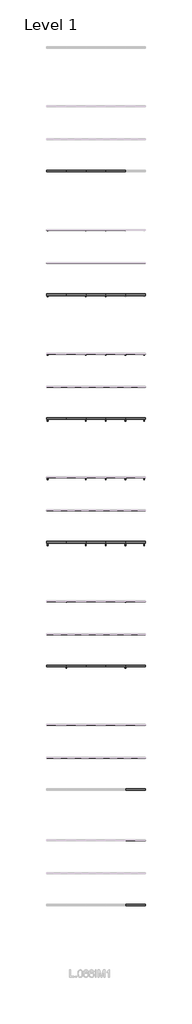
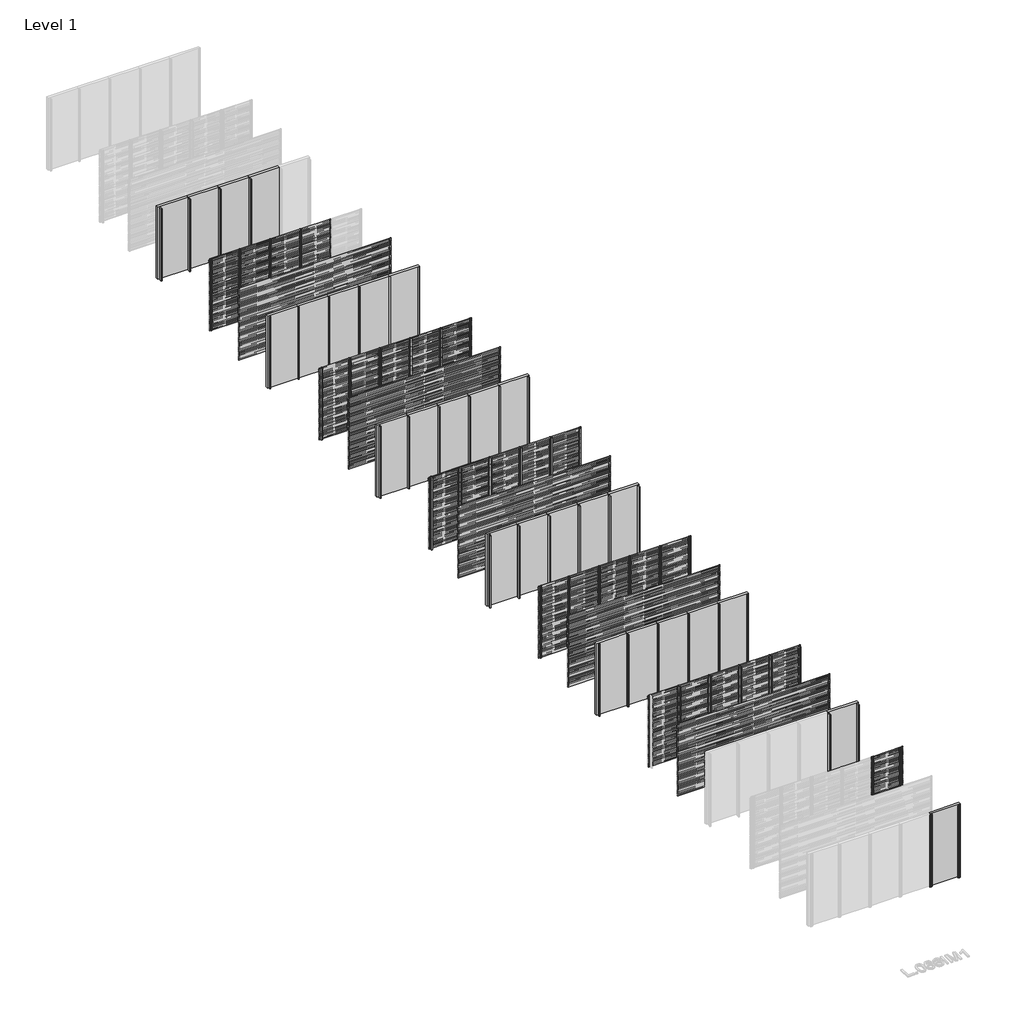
# One storey, part 12 of 540: 59 members, 56 plates.
"""IFC4 building model written with IfcOpenShell, lengths in millimetres."""

from ifc_helpers import new_model, si_unit, origin, place, context, project, spatial, faceted_brep, transform, mapped, element, save
from components import rectangular_mullion_fb497acc, rectangular_mullion_3facce28, rectangular_mullion_6cf2c509, rectangular_mullion_8b77bd57, rectangular_mullion_2c867e25, rectangular_mullion_7803f5c4, rectangular_mullion_82152e2f, rectangular_mullion_bd250e2e, rectangular_mullion_2b84ad7e, rectangular_mullion_9b796d85, rectangular_mullion_dfb17e98, rectangular_mullion_6132f1f1, rectangular_mullion_8f153c19, rectangular_mullion_5b30f3fd, rectangular_mullion_5e0e8e0a, rectangular_mullion_efb80f74, rectangular_mullion_ea9d012c, empty_system_panel_empty_aabbdda4

model = new_model("IFC4")

# Units and contexts
model_context = context("Model", 3, world=origin())
ifc_project = project(units=[si_unit("LENGTHUNIT", "METRE", prefix="MILLI")], contexts=[model_context])

# Site, building, storey
site = spatial("IfcSite", under=ifc_project)
building = spatial("IfcBuilding", under=site)
storey = spatial("IfcBuildingStorey", under=building, Name="Level 1", Elevation=0.0)

# Members
placement = place(None, origin())
rectangular_mullion_shape = rectangular_mullion_fb497acc(model_context)
element("IfcMember", 1, ObjectType="Rectangular Mullion : LD.0995_renson", at=placement, inside=storey, context=model_context, shape_type="MappedRepresentation", body=[
    mapped(rectangular_mullion_shape, transform((271066.6208096, 47483.0540136, 0.0), x_axis=(-1.0, 0.0, 0.0), y_axis=(0.0, 1.0, 0.0), z_axis=(0.0, 0.0, -1.0))),
])
element("IfcMember", 2, ObjectType="Rectangular Mullion : LD.0995_renson", at=placement, inside=storey, context=model_context, shape_type="MappedRepresentation", body=[
    mapped(rectangular_mullion_shape, transform((269866.6208097, 47483.0540136, 0.0), x_axis=(-1.0, 0.0, 0.0), y_axis=(0.0, 1.0, 0.0), z_axis=(0.0, 0.0, -1.0))),
])
element("IfcMember", 3, ObjectType="Rectangular Mullion : LD.0995_renson", at=placement, inside=storey, context=model_context, shape_type="MappedRepresentation", body=[
    mapped(rectangular_mullion_shape, transform((268666.6208099, 47483.0540136, 0.0), x_axis=(-1.0, 0.0, 0.0), y_axis=(0.0, 1.0, 0.0), z_axis=(0.0, 0.0, -1.0))),
])
rectangular_mullion_2_shape = rectangular_mullion_3facce28(model_context)
element("IfcMember", 4, ObjectType="Rectangular Mullion : SD.014_renson", at=placement, inside=storey, context=model_context, shape_type="MappedRepresentation", body=[
    mapped(rectangular_mullion_2_shape, transform((269866.6208097, 43983.0540136, 0.0), x_axis=(-1.0, 0.0, 0.0), y_axis=(0.0, 1.0, 0.0), z_axis=(0.0, 0.0, -1.0))),
])
element("IfcMember", 5, ObjectType="Rectangular Mullion : SD.014_renson", at=placement, inside=storey, context=model_context, shape_type="MappedRepresentation", body=[
    mapped(rectangular_mullion_2_shape, transform((268666.6208099, 43983.0540136, 0.0), x_axis=(-1.0, 0.0, 0.0), y_axis=(0.0, 1.0, 0.0), z_axis=(0.0, 0.0, -1.0))),
])
element("IfcMember", 6, ObjectType="Rectangular Mullion : SD.014_renson", at=placement, inside=storey, context=model_context, shape_type="MappedRepresentation", body=[
    mapped(rectangular_mullion_2_shape, transform((271066.6208096, 39983.0540136, 0.0), x_axis=(-1.0, 0.0, 0.0), y_axis=(0.0, 1.0, 0.0), z_axis=(0.0, 0.0, -1.0))),
])
element("IfcMember", 7, ObjectType="Rectangular Mullion : SD.014_renson", at=placement, inside=storey, context=model_context, shape_type="MappedRepresentation", body=[
    mapped(rectangular_mullion_2_shape, transform((269866.6208097, 39983.0540136, 0.0), x_axis=(-1.0, 0.0, 0.0), y_axis=(0.0, 1.0, 0.0), z_axis=(0.0, 0.0, -1.0))),
])
element("IfcMember", 8, ObjectType="Rectangular Mullion : SD.014_renson", at=placement, inside=storey, context=model_context, shape_type="MappedRepresentation", body=[
    mapped(rectangular_mullion_2_shape, transform((268666.6208099, 39983.0540136, 0.0), x_axis=(-1.0, 0.0, 0.0), y_axis=(0.0, 1.0, 0.0), z_axis=(0.0, 0.0, -1.0))),
])
element("IfcMember", 9, ObjectType="Rectangular Mullion : SD.014_renson", at=placement, inside=storey, context=model_context, shape_type="MappedRepresentation", body=[
    mapped(rectangular_mullion_2_shape, transform((271066.6208096, 43983.0540136, 0.0), x_axis=(-1.0, 0.0, 0.0), y_axis=(0.0, 1.0, 0.0), z_axis=(0.0, 0.0, -1.0))),
])
rectangular_mullion_3_shape = rectangular_mullion_6cf2c509(model_context)
element("IfcMember", 10, ObjectType="Rectangular Mullion : SD.054_renson", at=placement, inside=storey, context=model_context, shape_type="MappedRepresentation", body=[
    mapped(rectangular_mullion_3_shape, transform((269866.6208097, 36483.0540136, 0.0), x_axis=(-1.0, 0.0, 0.0), y_axis=(0.0, 1.0, 0.0), z_axis=(0.0, 0.0, -1.0))),
])
element("IfcMember", 11, ObjectType="Rectangular Mullion : SD.054_renson", at=placement, inside=storey, context=model_context, shape_type="MappedRepresentation", body=[
    mapped(rectangular_mullion_3_shape, transform((268666.6208099, 36483.0540136, 0.0), x_axis=(-1.0, 0.0, 0.0), y_axis=(0.0, 1.0, 0.0), z_axis=(0.0, 0.0, -1.0))),
])
element("IfcMember", 12, ObjectType="Rectangular Mullion : SD.054_renson", at=placement, inside=storey, context=model_context, shape_type="MappedRepresentation", body=[
    mapped(rectangular_mullion_3_shape, transform((272266.6208095, 32483.0540136, 0.0), x_axis=(-1.0, 0.0, 0.0), y_axis=(0.0, 1.0, 0.0), z_axis=(0.0, 0.0, -1.0))),
])
element("IfcMember", 13, ObjectType="Rectangular Mullion : SD.054_renson", at=placement, inside=storey, context=model_context, shape_type="MappedRepresentation", body=[
    mapped(rectangular_mullion_3_shape, transform((271066.6208096, 32483.0540136, 0.0), x_axis=(-1.0, 0.0, 0.0), y_axis=(0.0, 1.0, 0.0), z_axis=(0.0, 0.0, -1.0))),
])
element("IfcMember", 14, ObjectType="Rectangular Mullion : SD.054_renson", at=placement, inside=storey, context=model_context, shape_type="MappedRepresentation", body=[
    mapped(rectangular_mullion_3_shape, transform((269866.6208097, 32483.0540136, 0.0), x_axis=(-1.0, 0.0, 0.0), y_axis=(0.0, 1.0, 0.0), z_axis=(0.0, 0.0, -1.0))),
])
element("IfcMember", 15, ObjectType="Rectangular Mullion : SD.054_renson", at=placement, inside=storey, context=model_context, shape_type="MappedRepresentation", body=[
    mapped(rectangular_mullion_3_shape, transform((268666.6208099, 32483.0540136, 0.0), x_axis=(-1.0, 0.0, 0.0), y_axis=(0.0, 1.0, 0.0), z_axis=(0.0, 0.0, -1.0))),
])
element("IfcMember", 16, ObjectType="Rectangular Mullion : SD.054_renson", at=placement, inside=storey, context=model_context, shape_type="MappedRepresentation", body=[
    mapped(rectangular_mullion_3_shape, transform((271066.6208096, 36483.0540136, 0.0), x_axis=(-1.0, 0.0, 0.0), y_axis=(0.0, 1.0, 0.0), z_axis=(0.0, 0.0, -1.0))),
])
element("IfcMember", 17, ObjectType="Rectangular Mullion : SD.054_renson", at=placement, inside=storey, context=model_context, shape_type="MappedRepresentation", body=[
    mapped(rectangular_mullion_3_shape, transform((272266.6208095, 36483.0540136, 0.0), x_axis=(-1.0, 0.0, 0.0), y_axis=(0.0, 1.0, 0.0), z_axis=(0.0, 0.0, -1.0))),
])
rectangular_mullion_4_shape = rectangular_mullion_8b77bd57(model_context)
element("IfcMember", 18, ObjectType="Rectangular Mullion : SD.100_renson", at=placement, inside=storey, context=model_context, shape_type="MappedRepresentation", body=[
    mapped(rectangular_mullion_4_shape, transform((269866.6208097, 28983.0540136, 0.0), x_axis=(-1.0, 0.0, 0.0), y_axis=(0.0, 1.0, 0.0), z_axis=(0.0, 0.0, -1.0))),
])
element("IfcMember", 19, ObjectType="Rectangular Mullion : SD.100_renson", at=placement, inside=storey, context=model_context, shape_type="MappedRepresentation", body=[
    mapped(rectangular_mullion_4_shape, transform((268666.6208099, 28983.0540136, 0.0), x_axis=(-1.0, 0.0, 0.0), y_axis=(0.0, 1.0, 0.0), z_axis=(0.0, 0.0, -1.0))),
])
element("IfcMember", 20, ObjectType="Rectangular Mullion : SD.100_renson", at=placement, inside=storey, context=model_context, shape_type="MappedRepresentation", body=[
    mapped(rectangular_mullion_4_shape, transform((272266.6208095, 24983.0540136, 0.0), x_axis=(-1.0, 0.0, 0.0), y_axis=(0.0, 1.0, 0.0), z_axis=(0.0, 0.0, -1.0))),
])
element("IfcMember", 21, ObjectType="Rectangular Mullion : SD.100_renson", at=placement, inside=storey, context=model_context, shape_type="MappedRepresentation", body=[
    mapped(rectangular_mullion_4_shape, transform((271066.6208096, 24983.0540136, 0.0), x_axis=(-1.0, 0.0, 0.0), y_axis=(0.0, 1.0, 0.0), z_axis=(0.0, 0.0, -1.0))),
])
element("IfcMember", 22, ObjectType="Rectangular Mullion : SD.100_renson", at=placement, inside=storey, context=model_context, shape_type="MappedRepresentation", body=[
    mapped(rectangular_mullion_4_shape, transform((269866.6208097, 24983.0540136, 0.0), x_axis=(-1.0, 0.0, 0.0), y_axis=(0.0, 1.0, 0.0), z_axis=(0.0, 0.0, -1.0))),
])
element("IfcMember", 23, ObjectType="Rectangular Mullion : SD.100_renson", at=placement, inside=storey, context=model_context, shape_type="MappedRepresentation", body=[
    mapped(rectangular_mullion_4_shape, transform((268666.6208099, 24983.0540136, 0.0), x_axis=(-1.0, 0.0, 0.0), y_axis=(0.0, 1.0, 0.0), z_axis=(0.0, 0.0, -1.0))),
])
element("IfcMember", 24, ObjectType="Rectangular Mullion : SD.100_renson", at=placement, inside=storey, context=model_context, shape_type="MappedRepresentation", body=[
    mapped(rectangular_mullion_4_shape, transform((271066.6208096, 28983.0540136, 0.0), x_axis=(-1.0, 0.0, 0.0), y_axis=(0.0, 1.0, 0.0), z_axis=(0.0, 0.0, -1.0))),
])
element("IfcMember", 25, ObjectType="Rectangular Mullion : SD.100_renson", at=placement, inside=storey, context=model_context, shape_type="MappedRepresentation", body=[
    mapped(rectangular_mullion_4_shape, transform((272266.6208095, 28983.0540136, 0.0), x_axis=(-1.0, 0.0, 0.0), y_axis=(0.0, 1.0, 0.0), z_axis=(0.0, 0.0, -1.0))),
])
rectangular_mullion_5_shape = rectangular_mullion_2c867e25(model_context)
element("IfcMember", 26, ObjectType="Rectangular Mullion : LD.0440_renson", at=placement, inside=storey, context=model_context, shape_type="MappedRepresentation", body=[
    mapped(rectangular_mullion_5_shape, transform((269866.6208097, 21483.0540136, 0.0), x_axis=(-1.0, 0.0, 0.0), y_axis=(0.0, 1.0, 0.0), z_axis=(0.0, 0.0, -1.0))),
])
element("IfcMember", 27, ObjectType="Rectangular Mullion : LD.0440_renson", at=placement, inside=storey, context=model_context, shape_type="MappedRepresentation", body=[
    mapped(rectangular_mullion_5_shape, transform((268666.6208099, 21483.0540136, 0.0), x_axis=(-1.0, 0.0, 0.0), y_axis=(0.0, 1.0, 0.0), z_axis=(0.0, 0.0, -1.0))),
])
element("IfcMember", 28, ObjectType="Rectangular Mullion : LD.0440_renson", at=placement, inside=storey, context=model_context, shape_type="MappedRepresentation", body=[
    mapped(rectangular_mullion_5_shape, transform((272266.6208095, 17483.0540136, 0.0), x_axis=(-1.0, 0.0, 0.0), y_axis=(0.0, 1.0, 0.0), z_axis=(0.0, 0.0, -1.0))),
])
element("IfcMember", 29, ObjectType="Rectangular Mullion : LD.0440_renson", at=placement, inside=storey, context=model_context, shape_type="MappedRepresentation", body=[
    mapped(rectangular_mullion_5_shape, transform((271066.6208096, 17483.0540136, 0.0), x_axis=(-1.0, 0.0, 0.0), y_axis=(0.0, 1.0, 0.0), z_axis=(0.0, 0.0, -1.0))),
])
element("IfcMember", 30, ObjectType="Rectangular Mullion : LD.0440_renson", at=placement, inside=storey, context=model_context, shape_type="MappedRepresentation", body=[
    mapped(rectangular_mullion_5_shape, transform((269866.6208097, 17483.0540136, 0.0), x_axis=(-1.0, 0.0, 0.0), y_axis=(0.0, 1.0, 0.0), z_axis=(0.0, 0.0, -1.0))),
])
element("IfcMember", 31, ObjectType="Rectangular Mullion : LD.0440_renson", at=placement, inside=storey, context=model_context, shape_type="MappedRepresentation", body=[
    mapped(rectangular_mullion_5_shape, transform((268666.6208099, 17483.0540136, 0.0), x_axis=(-1.0, 0.0, 0.0), y_axis=(0.0, 1.0, 0.0), z_axis=(0.0, 0.0, -1.0))),
])
element("IfcMember", 32, ObjectType="Rectangular Mullion : LD.0440_renson", at=placement, inside=storey, context=model_context, shape_type="MappedRepresentation", body=[
    mapped(rectangular_mullion_5_shape, transform((271066.6208096, 21483.0540136, 0.0), x_axis=(-1.0, 0.0, 0.0), y_axis=(0.0, 1.0, 0.0), z_axis=(0.0, 0.0, -1.0))),
])
element("IfcMember", 33, ObjectType="Rectangular Mullion : LD.0440_renson", at=placement, inside=storey, context=model_context, shape_type="MappedRepresentation", body=[
    mapped(rectangular_mullion_5_shape, transform((272266.6208095, 21483.0540136, 0.0), x_axis=(-1.0, 0.0, 0.0), y_axis=(0.0, 1.0, 0.0), z_axis=(0.0, 0.0, -1.0))),
])
rectangular_mullion_6_shape = rectangular_mullion_7803f5c4(model_context)
element("IfcMember", 34, ObjectType="Rectangular Mullion : LD.1250_renson", at=placement, inside=storey, context=model_context, shape_type="MappedRepresentation", body=[
    mapped(rectangular_mullion_6_shape, transform((269866.6208097, 13983.0540136, 0.0), x_axis=(-1.0, 0.0, 0.0), y_axis=(0.0, 1.0, 0.0), z_axis=(0.0, 0.0, -1.0))),
])
element("IfcMember", 35, ObjectType="Rectangular Mullion : LD.1250_renson", at=placement, inside=storey, context=model_context, shape_type="MappedRepresentation", body=[
    mapped(rectangular_mullion_6_shape, transform((268666.6208099, 13983.0540136, 0.0), x_axis=(-1.0, 0.0, 0.0), y_axis=(0.0, 1.0, 0.0), z_axis=(0.0, 0.0, -1.0))),
])
element("IfcMember", 36, ObjectType="Rectangular Mullion : LD.1250_renson", at=placement, inside=storey, context=model_context, shape_type="MappedRepresentation", body=[
    mapped(rectangular_mullion_6_shape, transform((272266.6208095, 9983.0540136, 0.0), x_axis=(-1.0, 0.0, 0.0), y_axis=(0.0, 1.0, 0.0), z_axis=(0.0, 0.0, -1.0))),
])
element("IfcMember", 37, ObjectType="Rectangular Mullion : LD.1250_renson", at=placement, inside=storey, context=model_context, shape_type="MappedRepresentation", body=[
    mapped(rectangular_mullion_6_shape, transform((271066.6208096, 13983.0540136, 0.0), x_axis=(-1.0, 0.0, 0.0), y_axis=(0.0, 1.0, 0.0), z_axis=(0.0, 0.0, -1.0))),
])
element("IfcMember", 38, ObjectType="Rectangular Mullion : LD.1250_renson", at=placement, inside=storey, context=model_context, shape_type="MappedRepresentation", body=[
    mapped(rectangular_mullion_6_shape, transform((272266.6208095, 13983.0540136, 0.0), x_axis=(-1.0, 0.0, 0.0), y_axis=(0.0, 1.0, 0.0), z_axis=(0.0, 0.0, -1.0))),
])
rectangular_mullion_7_shape = rectangular_mullion_82152e2f(model_context)
element("IfcMember", 39, ObjectType="Rectangular Mullion : LD.0240_renson", at=placement, inside=storey, context=model_context, shape_type="MappedRepresentation", body=[
    mapped(rectangular_mullion_7_shape, transform((272266.6208095, 2987.0270068, 0.0), x_axis=(-1.0, 0.0, 0.0), y_axis=(0.0, 1.0, 0.0), z_axis=(0.0, 0.0, -1.0))),
])
element("IfcMember", 40, ObjectType="Rectangular Mullion : LD.0240_renson", at=placement, inside=storey, context=model_context, shape_type="MappedRepresentation", body=[
    mapped(rectangular_mullion_7_shape, transform((272266.6208095, 6987.0270068, 0.0), x_axis=(-1.0, 0.0, 0.0), y_axis=(0.0, 1.0, 0.0), z_axis=(0.0, 0.0, -1.0))),
])
rectangular_mullion_8_shape = rectangular_mullion_bd250e2e(model_context)
element("IfcMember", 41, ObjectType="Rectangular Mullion : LD.0995 - left_renson", at=placement, inside=storey, context=model_context, shape_type="MappedRepresentation", body=[
    mapped(rectangular_mullion_8_shape, transform((267466.6208097, 47483.0540136, 0.0), x_axis=(-1.0, 0.0, 0.0), y_axis=(0.0, 1.0, 0.0), z_axis=(0.0, 0.0, -1.0))),
])
rectangular_mullion_9_shape = rectangular_mullion_2b84ad7e(model_context)
element("IfcMember", 42, ObjectType="Rectangular Mullion : SD.014 - left_renson", at=placement, inside=storey, context=model_context, shape_type="MappedRepresentation", body=[
    mapped(rectangular_mullion_9_shape, transform((267466.6208097, 43983.0540136, 0.0), x_axis=(-1.0, 0.0, 0.0), y_axis=(0.0, 1.0, 0.0), z_axis=(0.0, 0.0, -1.0))),
])
element("IfcMember", 43, ObjectType="Rectangular Mullion : SD.014 - left_renson", at=placement, inside=storey, context=model_context, shape_type="MappedRepresentation", body=[
    mapped(rectangular_mullion_9_shape, transform((267466.6208097, 39983.0540136, 0.0), x_axis=(-1.0, 0.0, 0.0), y_axis=(0.0, 1.0, 0.0), z_axis=(0.0, 0.0, -1.0))),
])
rectangular_mullion_10_shape = rectangular_mullion_9b796d85(model_context)
element("IfcMember", 44, ObjectType="Rectangular Mullion : SD.054 - left_renson", at=placement, inside=storey, context=model_context, shape_type="MappedRepresentation", body=[
    mapped(rectangular_mullion_10_shape, transform((267466.6208097, 36483.0540136, 0.0), x_axis=(-1.0, 0.0, 0.0), y_axis=(0.0, 1.0, 0.0), z_axis=(0.0, 0.0, -1.0))),
])
element("IfcMember", 45, ObjectType="Rectangular Mullion : SD.054 - left_renson", at=placement, inside=storey, context=model_context, shape_type="MappedRepresentation", body=[
    mapped(rectangular_mullion_10_shape, transform((267466.6208097, 32483.0540136, 0.0), x_axis=(-1.0, 0.0, 0.0), y_axis=(0.0, 1.0, 0.0), z_axis=(0.0, 0.0, -1.0))),
])
rectangular_mullion_11_shape = rectangular_mullion_dfb17e98(model_context)
element("IfcMember", 46, ObjectType="Rectangular Mullion : SD.054 - right_renson", at=placement, inside=storey, context=model_context, shape_type="MappedRepresentation", body=[
    mapped(rectangular_mullion_11_shape, transform((273466.6208097, 36483.0540136, 3000.0), x_axis=(1.0, 0.0, 0.0), y_axis=(0.0, 1.0, 0.0), z_axis=(0.0, 0.0, 1.0))),
])
element("IfcMember", 47, ObjectType="Rectangular Mullion : SD.054 - right_renson", at=placement, inside=storey, context=model_context, shape_type="MappedRepresentation", body=[
    mapped(rectangular_mullion_11_shape, transform((273466.6208097, 32483.0540136, 3000.0), x_axis=(1.0, 0.0, 0.0), y_axis=(0.0, 1.0, 0.0), z_axis=(0.0, 0.0, 1.0))),
])
rectangular_mullion_12_shape = rectangular_mullion_6132f1f1(model_context)
element("IfcMember", 48, ObjectType="Rectangular Mullion : SD.100 - left_renson", at=placement, inside=storey, context=model_context, shape_type="MappedRepresentation", body=[
    mapped(rectangular_mullion_12_shape, transform((267466.6208097, 28983.0540136, 0.0), x_axis=(-1.0, 0.0, 0.0), y_axis=(0.0, 1.0, 0.0), z_axis=(0.0, 0.0, -1.0))),
])
element("IfcMember", 49, ObjectType="Rectangular Mullion : SD.100 - left_renson", at=placement, inside=storey, context=model_context, shape_type="MappedRepresentation", body=[
    mapped(rectangular_mullion_12_shape, transform((267466.6208097, 24983.0540136, 0.0), x_axis=(-1.0, 0.0, 0.0), y_axis=(0.0, 1.0, 0.0), z_axis=(0.0, 0.0, -1.0))),
])
rectangular_mullion_13_shape = rectangular_mullion_8f153c19(model_context)
element("IfcMember", 50, ObjectType="Rectangular Mullion : SD.100 - right_renson", at=placement, inside=storey, context=model_context, shape_type="MappedRepresentation", body=[
    mapped(rectangular_mullion_13_shape, transform((273466.6208097, 28983.0540136, 3000.0), x_axis=(1.0, 0.0, 0.0), y_axis=(0.0, 1.0, 0.0), z_axis=(0.0, 0.0, 1.0))),
])
element("IfcMember", 51, ObjectType="Rectangular Mullion : SD.100 - right_renson", at=placement, inside=storey, context=model_context, shape_type="MappedRepresentation", body=[
    mapped(rectangular_mullion_13_shape, transform((273466.6208097, 24983.0540136, 3000.0), x_axis=(1.0, 0.0, 0.0), y_axis=(0.0, 1.0, 0.0), z_axis=(0.0, 0.0, 1.0))),
])
rectangular_mullion_14_shape = rectangular_mullion_5b30f3fd(model_context)
element("IfcMember", 52, ObjectType="Rectangular Mullion : LD.0440 - left_renson", at=placement, inside=storey, context=model_context, shape_type="MappedRepresentation", body=[
    mapped(rectangular_mullion_14_shape, transform((267466.6208097, 21483.0540136, 0.0), x_axis=(-1.0, 0.0, 0.0), y_axis=(0.0, 1.0, 0.0), z_axis=(0.0, 0.0, -1.0))),
])
element("IfcMember", 53, ObjectType="Rectangular Mullion : LD.0440 - left_renson", at=placement, inside=storey, context=model_context, shape_type="MappedRepresentation", body=[
    mapped(rectangular_mullion_14_shape, transform((267466.6208097, 17483.0540136, 0.0), x_axis=(-1.0, 0.0, 0.0), y_axis=(0.0, 1.0, 0.0), z_axis=(0.0, 0.0, -1.0))),
])
rectangular_mullion_15_shape = rectangular_mullion_5e0e8e0a(model_context)
element("IfcMember", 54, ObjectType="Rectangular Mullion : LD.0440 - right_renson", at=placement, inside=storey, context=model_context, shape_type="MappedRepresentation", body=[
    mapped(rectangular_mullion_15_shape, transform((273466.6208097, 21483.0540136, 3000.0), x_axis=(1.0, 0.0, 0.0), y_axis=(0.0, 1.0, 0.0), z_axis=(0.0, 0.0, 1.0))),
])
element("IfcMember", 55, ObjectType="Rectangular Mullion : LD.0440 - right_renson", at=placement, inside=storey, context=model_context, shape_type="MappedRepresentation", body=[
    mapped(rectangular_mullion_15_shape, transform((273466.6208097, 17483.0540136, 3000.0), x_axis=(1.0, 0.0, 0.0), y_axis=(0.0, 1.0, 0.0), z_axis=(0.0, 0.0, 1.0))),
])
rectangular_mullion_16_shape = rectangular_mullion_efb80f74(model_context)
element("IfcMember", 56, ObjectType="Rectangular Mullion : LD.1250 - right_renson", at=placement, inside=storey, context=model_context, shape_type="MappedRepresentation", body=[
    mapped(rectangular_mullion_16_shape, transform((273466.6208097, 13983.0540136, 3000.0), x_axis=(1.0, 0.0, 0.0), y_axis=(0.0, 1.0, 0.0), z_axis=(0.0, 0.0, 1.0))),
])
element("IfcMember", 57, ObjectType="Rectangular Mullion : LD.1250 - right_renson", at=placement, inside=storey, context=model_context, shape_type="MappedRepresentation", body=[
    mapped(rectangular_mullion_16_shape, transform((273466.6208097, 9983.0540136, 3000.0), x_axis=(1.0, 0.0, 0.0), y_axis=(0.0, 1.0, 0.0), z_axis=(0.0, 0.0, 1.0))),
])
rectangular_mullion_17_shape = rectangular_mullion_ea9d012c(model_context)
element("IfcMember", 58, ObjectType="Rectangular Mullion : LD.0240 - right_renson", at=placement, inside=storey, context=model_context, shape_type="MappedRepresentation", body=[
    mapped(rectangular_mullion_17_shape, transform((273466.6208097, 6987.0270068, 3000.0), x_axis=(1.0, 0.0, 0.0), y_axis=(0.0, 1.0, 0.0), z_axis=(0.0, 0.0, 1.0))),
])
element("IfcMember", 59, ObjectType="Rectangular Mullion : LD.0240 - right_renson", at=placement, inside=storey, context=model_context, shape_type="MappedRepresentation", body=[
    mapped(rectangular_mullion_17_shape, transform((273466.6208097, 2987.0270068, 3000.0), x_axis=(1.0, 0.0, 0.0), y_axis=(0.0, 1.0, 0.0), z_axis=(0.0, 0.0, 1.0))),
])

# Plates
element("IfcPlate", 60, at=placement, inside=storey, context=model_context, shape_type="Brep", body=[
    faceted_brep([(268666.6208099, 43984.0540136, 0.0), (267466.6208097, 43984.0540136, 0.0), (267466.6208097, 43984.0540136, 3000.0), (268666.6208099, 43984.0540136, 3000.0), (268666.6208099, 43982.0540136, 0.0), (268666.6208099, 43982.0540136, 3000.0), (267466.6208097, 43982.0540136, 3000.0), (267466.6208097, 43982.0540136, 0.0)], [[[0, 1, 2, 3]], [[4, 5, 6, 7]], [[1, 0, 4, 7]], [[2, 1, 7, 6]], [[3, 2, 6, 5]], [[0, 3, 5, 4]]]),
])
element("IfcPlate", 61, at=placement, inside=storey, context=model_context, shape_type="Brep", body=[
    faceted_brep([(269866.6208097, 43984.0540136, 0.0), (268666.6208099, 43984.0540136, 0.0), (268666.6208099, 43984.0540136, 3000.0), (269866.6208097, 43984.0540136, 3000.0), (269866.6208097, 43982.0540136, 0.0), (269866.6208097, 43982.0540136, 3000.0), (268666.6208099, 43982.0540136, 3000.0), (268666.6208099, 43982.0540136, 0.0)], [[[0, 1, 2, 3]], [[4, 5, 6, 7]], [[1, 0, 4, 7]], [[2, 1, 7, 6]], [[3, 2, 6, 5]], [[0, 3, 5, 4]]]),
])
element("IfcPlate", 62, at=placement, inside=storey, context=model_context, shape_type="Brep", body=[
    faceted_brep([(273466.6208097, 41984.0540136, 0.0), (267466.6208097, 41984.0540136, 0.0), (267466.6208097, 41984.0540136, 3000.0), (273466.6208097, 41984.0540136, 3000.0), (273466.6208097, 41982.0540136, 0.0), (273466.6208097, 41982.0540136, 3000.0), (267466.6208097, 41982.0540136, 3000.0), (267466.6208097, 41982.0540136, 0.0)], [[[0, 1, 2, 3]], [[4, 5, 6, 7]], [[1, 0, 4, 7]], [[2, 1, 7, 6]], [[3, 2, 6, 5]], [[0, 3, 5, 4]]]),
])
element("IfcPlate", 63, at=placement, inside=storey, context=model_context, shape_type="Brep", body=[
    faceted_brep([(268666.6208099, 36484.0540136, 0.0), (267466.6208097, 36484.0540136, 0.0), (267466.6208097, 36484.0540136, 3000.0), (268666.6208099, 36484.0540136, 3000.0), (268666.6208099, 36482.0540136, 0.0), (268666.6208099, 36482.0540136, 3000.0), (267466.6208097, 36482.0540136, 3000.0), (267466.6208097, 36482.0540136, 0.0)], [[[0, 1, 2, 3]], [[4, 5, 6, 7]], [[1, 0, 4, 7]], [[2, 1, 7, 6]], [[3, 2, 6, 5]], [[0, 3, 5, 4]]]),
])
element("IfcPlate", 64, at=placement, inside=storey, context=model_context, shape_type="Brep", body=[
    faceted_brep([(269866.6208097, 36484.0540136, 0.0), (268666.6208099, 36484.0540136, 0.0), (268666.6208099, 36484.0540136, 3000.0), (269866.6208097, 36484.0540136, 3000.0), (269866.6208097, 36482.0540136, 0.0), (269866.6208097, 36482.0540136, 3000.0), (268666.6208099, 36482.0540136, 3000.0), (268666.6208099, 36482.0540136, 0.0)], [[[0, 1, 2, 3]], [[4, 5, 6, 7]], [[1, 0, 4, 7]], [[2, 1, 7, 6]], [[3, 2, 6, 5]], [[0, 3, 5, 4]]]),
])
element("IfcPlate", 65, at=placement, inside=storey, context=model_context, shape_type="Brep", body=[
    faceted_brep([(273466.6208097, 36484.0540136, 0.0), (272266.6208095, 36484.0540136, 0.0), (272266.6208095, 36484.0540136, 3000.0), (273466.6208097, 36484.0540136, 3000.0), (273466.6208097, 36482.0540136, 0.0), (273466.6208097, 36482.0540136, 3000.0), (272266.6208095, 36482.0540136, 3000.0), (272266.6208095, 36482.0540136, 0.0)], [[[0, 1, 2, 3]], [[4, 5, 6, 7]], [[1, 0, 4, 7]], [[2, 1, 7, 6]], [[3, 2, 6, 5]], [[0, 3, 5, 4]]]),
])
element("IfcPlate", 66, at=placement, inside=storey, context=model_context, shape_type="Brep", body=[
    faceted_brep([(273466.6208097, 34484.0540136, 0.0), (267466.6208097, 34484.0540136, 0.0), (267466.6208097, 34484.0540136, 3000.0), (273466.6208097, 34484.0540136, 3000.0), (273466.6208097, 34482.0540136, 0.0), (273466.6208097, 34482.0540136, 3000.0), (267466.6208097, 34482.0540136, 3000.0), (267466.6208097, 34482.0540136, 0.0)], [[[0, 1, 2, 3]], [[4, 5, 6, 7]], [[1, 0, 4, 7]], [[2, 1, 7, 6]], [[3, 2, 6, 5]], [[0, 3, 5, 4]]]),
])
element("IfcPlate", 67, at=placement, inside=storey, context=model_context, shape_type="Brep", body=[
    faceted_brep([(268666.6208099, 28984.0540136, 0.0), (267466.6208097, 28984.0540136, 0.0), (267466.6208097, 28984.0540136, 3000.0), (268666.6208099, 28984.0540136, 3000.0), (268666.6208099, 28982.0540136, 0.0), (268666.6208099, 28982.0540136, 3000.0), (267466.6208097, 28982.0540136, 3000.0), (267466.6208097, 28982.0540136, 0.0)], [[[0, 1, 2, 3]], [[4, 5, 6, 7]], [[1, 0, 4, 7]], [[2, 1, 7, 6]], [[3, 2, 6, 5]], [[0, 3, 5, 4]]]),
])
element("IfcPlate", 68, at=placement, inside=storey, context=model_context, shape_type="Brep", body=[
    faceted_brep([(269866.6208097, 28984.0540136, 0.0), (268666.6208099, 28984.0540136, 0.0), (268666.6208099, 28984.0540136, 3000.0), (269866.6208097, 28984.0540136, 3000.0), (269866.6208097, 28982.0540136, 0.0), (269866.6208097, 28982.0540136, 3000.0), (268666.6208099, 28982.0540136, 3000.0), (268666.6208099, 28982.0540136, 0.0)], [[[0, 1, 2, 3]], [[4, 5, 6, 7]], [[1, 0, 4, 7]], [[2, 1, 7, 6]], [[3, 2, 6, 5]], [[0, 3, 5, 4]]]),
])
element("IfcPlate", 69, at=placement, inside=storey, context=model_context, shape_type="Brep", body=[
    faceted_brep([(273466.6208097, 28984.0540136, 0.0), (272266.6208095, 28984.0540136, 0.0), (272266.6208095, 28984.0540136, 3000.0), (273466.6208097, 28984.0540136, 3000.0), (273466.6208097, 28982.0540136, 0.0), (273466.6208097, 28982.0540136, 3000.0), (272266.6208095, 28982.0540136, 3000.0), (272266.6208095, 28982.0540136, 0.0)], [[[0, 1, 2, 3]], [[4, 5, 6, 7]], [[1, 0, 4, 7]], [[2, 1, 7, 6]], [[3, 2, 6, 5]], [[0, 3, 5, 4]]]),
])
element("IfcPlate", 70, at=placement, inside=storey, context=model_context, shape_type="Brep", body=[
    faceted_brep([(273466.6208097, 26984.0540136, 0.0), (267466.6208097, 26984.0540136, 0.0), (267466.6208097, 26984.0540136, 3000.0), (273466.6208097, 26984.0540136, 3000.0), (273466.6208097, 26982.0540136, 0.0), (273466.6208097, 26982.0540136, 3000.0), (267466.6208097, 26982.0540136, 3000.0), (267466.6208097, 26982.0540136, 0.0)], [[[0, 1, 2, 3]], [[4, 5, 6, 7]], [[1, 0, 4, 7]], [[2, 1, 7, 6]], [[3, 2, 6, 5]], [[0, 3, 5, 4]]]),
])
element("IfcPlate", 71, at=placement, inside=storey, context=model_context, shape_type="Brep", body=[
    faceted_brep([(268666.6208099, 21484.0540136, 0.0), (267466.6208097, 21484.0540136, 0.0), (267466.6208097, 21484.0540136, 3000.0), (268666.6208099, 21484.0540136, 3000.0), (268666.6208099, 21482.0540136, 0.0), (268666.6208099, 21482.0540136, 3000.0), (267466.6208097, 21482.0540136, 3000.0), (267466.6208097, 21482.0540136, 0.0)], [[[0, 1, 2, 3]], [[4, 5, 6, 7]], [[1, 0, 4, 7]], [[2, 1, 7, 6]], [[3, 2, 6, 5]], [[0, 3, 5, 4]]]),
])
element("IfcPlate", 72, at=placement, inside=storey, context=model_context, shape_type="Brep", body=[
    faceted_brep([(269866.6208097, 21484.0540136, 0.0), (268666.6208099, 21484.0540136, 0.0), (268666.6208099, 21484.0540136, 3000.0), (269866.6208097, 21484.0540136, 3000.0), (269866.6208097, 21482.0540136, 0.0), (269866.6208097, 21482.0540136, 3000.0), (268666.6208099, 21482.0540136, 3000.0), (268666.6208099, 21482.0540136, 0.0)], [[[0, 1, 2, 3]], [[4, 5, 6, 7]], [[1, 0, 4, 7]], [[2, 1, 7, 6]], [[3, 2, 6, 5]], [[0, 3, 5, 4]]]),
])
element("IfcPlate", 73, at=placement, inside=storey, context=model_context, shape_type="Brep", body=[
    faceted_brep([(273466.6208097, 21484.0540136, 0.0), (272266.6208095, 21484.0540136, 0.0), (272266.6208095, 21484.0540136, 3000.0), (273466.6208097, 21484.0540136, 3000.0), (273466.6208097, 21482.0540136, 0.0), (273466.6208097, 21482.0540136, 3000.0), (272266.6208095, 21482.0540136, 3000.0), (272266.6208095, 21482.0540136, 0.0)], [[[0, 1, 2, 3]], [[4, 5, 6, 7]], [[1, 0, 4, 7]], [[2, 1, 7, 6]], [[3, 2, 6, 5]], [[0, 3, 5, 4]]]),
])
element("IfcPlate", 74, at=placement, inside=storey, context=model_context, shape_type="Brep", body=[
    faceted_brep([(273466.6208097, 19484.0540136, 0.0), (267466.6208097, 19484.0540136, 0.0), (267466.6208097, 19484.0540136, 3000.0), (273466.6208097, 19484.0540136, 3000.0), (273466.6208097, 19482.0540136, 0.0), (273466.6208097, 19482.0540136, 3000.0), (267466.6208097, 19482.0540136, 3000.0), (267466.6208097, 19482.0540136, 0.0)], [[[0, 1, 2, 3]], [[4, 5, 6, 7]], [[1, 0, 4, 7]], [[2, 1, 7, 6]], [[3, 2, 6, 5]], [[0, 3, 5, 4]]]),
])
element("IfcPlate", 75, at=placement, inside=storey, context=model_context, shape_type="Brep", body=[
    faceted_brep([(268666.6208099, 13984.0540136, 0.0), (267466.6208097, 13984.0540136, 0.0), (267466.6208097, 13984.0540136, 3000.0), (268666.6208099, 13984.0540136, 3000.0), (268666.6208099, 13982.0540136, 0.0), (268666.6208099, 13982.0540136, 3000.0), (267466.6208097, 13982.0540136, 3000.0), (267466.6208097, 13982.0540136, 0.0)], [[[0, 1, 2, 3]], [[4, 5, 6, 7]], [[1, 0, 4, 7]], [[2, 1, 7, 6]], [[3, 2, 6, 5]], [[0, 3, 5, 4]]]),
])
element("IfcPlate", 76, at=placement, inside=storey, context=model_context, shape_type="Brep", body=[
    faceted_brep([(269866.6208097, 13984.0540136, 0.0), (268666.6208099, 13984.0540136, 0.0), (268666.6208099, 13984.0540136, 3000.0), (269866.6208097, 13984.0540136, 3000.0), (269866.6208097, 13982.0540136, 0.0), (269866.6208097, 13982.0540136, 3000.0), (268666.6208099, 13982.0540136, 3000.0), (268666.6208099, 13982.0540136, 0.0)], [[[0, 1, 2, 3]], [[4, 5, 6, 7]], [[1, 0, 4, 7]], [[2, 1, 7, 6]], [[3, 2, 6, 5]], [[0, 3, 5, 4]]]),
])
element("IfcPlate", 77, at=placement, inside=storey, context=model_context, shape_type="Brep", body=[
    faceted_brep([(273466.6208097, 13984.0540136, 0.0), (272266.6208095, 13984.0540136, 0.0), (272266.6208095, 13984.0540136, 3000.0), (273466.6208097, 13984.0540136, 3000.0), (273466.6208097, 13982.0540136, 0.0), (273466.6208097, 13982.0540136, 3000.0), (272266.6208095, 13982.0540136, 3000.0), (272266.6208095, 13982.0540136, 0.0)], [[[0, 1, 2, 3]], [[4, 5, 6, 7]], [[1, 0, 4, 7]], [[2, 1, 7, 6]], [[3, 2, 6, 5]], [[0, 3, 5, 4]]]),
])
element("IfcPlate", 78, at=placement, inside=storey, context=model_context, shape_type="Brep", body=[
    faceted_brep([(273466.6208097, 11984.0540136, 0.0), (267466.6208097, 11984.0540136, 0.0), (267466.6208097, 11984.0540136, 3000.0), (273466.6208097, 11984.0540136, 3000.0), (273466.6208097, 11982.0540136, 0.0), (273466.6208097, 11982.0540136, 3000.0), (267466.6208097, 11982.0540136, 3000.0), (267466.6208097, 11982.0540136, 0.0)], [[[0, 1, 2, 3]], [[4, 5, 6, 7]], [[1, 0, 4, 7]], [[2, 1, 7, 6]], [[3, 2, 6, 5]], [[0, 3, 5, 4]]]),
])
element("IfcPlate", 79, at=placement, inside=storey, context=model_context, shape_type="Brep", body=[
    faceted_brep([(273466.6208097, 6988.0270068, 0.0), (272266.6208095, 6988.0270068, 0.0), (272266.6208095, 6988.0270068, 3000.0), (273466.6208097, 6988.0270068, 3000.0), (273466.6208097, 6986.0270068, 0.0), (273466.6208097, 6986.0270068, 3000.0), (272266.6208095, 6986.0270068, 3000.0), (272266.6208095, 6986.0270068, 0.0)], [[[0, 1, 2, 3]], [[4, 5, 6, 7]], [[1, 0, 4, 7]], [[2, 1, 7, 6]], [[3, 2, 6, 5]], [[0, 3, 5, 4]]]),
])
element("IfcPlate", 80, at=placement, inside=storey, context=model_context, shape_type="Brep", body=[
    faceted_brep([(271066.6208096, 21484.0540136, 0.0), (269866.6208097, 21484.0540136, 0.0), (269866.6208097, 21484.0540136, 3000.0), (271066.6208096, 21484.0540136, 3000.0), (271066.6208096, 21482.0540136, 0.0), (271066.6208096, 21482.0540136, 3000.0), (269866.6208097, 21482.0540136, 3000.0), (269866.6208097, 21482.0540136, 0.0)], [[[0, 1, 2, 3]], [[4, 5, 6, 7]], [[1, 0, 4, 7]], [[2, 1, 7, 6]], [[3, 2, 6, 5]], [[0, 3, 5, 4]]]),
])
element("IfcPlate", 81, at=placement, inside=storey, context=model_context, shape_type="Brep", body=[
    faceted_brep([(272266.6208095, 21484.0540136, 0.0), (271066.6208096, 21484.0540136, 0.0), (271066.6208096, 21484.0540136, 3000.0), (272266.6208095, 21484.0540136, 3000.0), (272266.6208095, 21482.0540136, 0.0), (272266.6208095, 21482.0540136, 3000.0), (271066.6208096, 21482.0540136, 3000.0), (271066.6208096, 21482.0540136, 0.0)], [[[0, 1, 2, 3]], [[4, 5, 6, 7]], [[1, 0, 4, 7]], [[2, 1, 7, 6]], [[3, 2, 6, 5]], [[0, 3, 5, 4]]]),
])
element("IfcPlate", 82, at=placement, inside=storey, context=model_context, shape_type="Brep", body=[
    faceted_brep([(271066.6208096, 13984.0540136, 0.0), (269866.6208097, 13984.0540136, 0.0), (269866.6208097, 13984.0540136, 3000.0), (271066.6208096, 13984.0540136, 3000.0), (271066.6208096, 13982.0540136, 0.0), (271066.6208096, 13982.0540136, 3000.0), (269866.6208097, 13982.0540136, 3000.0), (269866.6208097, 13982.0540136, 0.0)], [[[0, 1, 2, 3]], [[4, 5, 6, 7]], [[1, 0, 4, 7]], [[2, 1, 7, 6]], [[3, 2, 6, 5]], [[0, 3, 5, 4]]]),
])
element("IfcPlate", 83, at=placement, inside=storey, context=model_context, shape_type="Brep", body=[
    faceted_brep([(272266.6208095, 13984.0540136, 0.0), (271066.6208096, 13984.0540136, 0.0), (271066.6208096, 13984.0540136, 3000.0), (272266.6208095, 13984.0540136, 3000.0), (272266.6208095, 13982.0540136, 0.0), (272266.6208095, 13982.0540136, 3000.0), (271066.6208096, 13982.0540136, 3000.0), (271066.6208096, 13982.0540136, 0.0)], [[[0, 1, 2, 3]], [[4, 5, 6, 7]], [[1, 0, 4, 7]], [[2, 1, 7, 6]], [[3, 2, 6, 5]], [[0, 3, 5, 4]]]),
])
element("IfcPlate", 84, at=placement, inside=storey, context=model_context, shape_type="Brep", body=[
    faceted_brep([(271066.6208096, 43984.0540136, 0.0), (269866.6208097, 43984.0540136, 0.0), (269866.6208097, 43984.0540136, 3000.0), (271066.6208096, 43984.0540136, 3000.0), (271066.6208096, 43982.0540136, 0.0), (271066.6208096, 43982.0540136, 3000.0), (269866.6208097, 43982.0540136, 3000.0), (269866.6208097, 43982.0540136, 0.0)], [[[0, 1, 2, 3]], [[4, 5, 6, 7]], [[1, 0, 4, 7]], [[2, 1, 7, 6]], [[3, 2, 6, 5]], [[0, 3, 5, 4]]]),
])
element("IfcPlate", 85, at=placement, inside=storey, context=model_context, shape_type="Brep", body=[
    faceted_brep([(272266.6208095, 43984.0540136, 0.0), (271066.6208096, 43984.0540136, 0.0), (271066.6208096, 43984.0540136, 3000.0), (272266.6208095, 43984.0540136, 3000.0), (272266.6208095, 43982.0540136, 0.0), (272266.6208095, 43982.0540136, 3000.0), (271066.6208096, 43982.0540136, 3000.0), (271066.6208096, 43982.0540136, 0.0)], [[[0, 1, 2, 3]], [[4, 5, 6, 7]], [[1, 0, 4, 7]], [[2, 1, 7, 6]], [[3, 2, 6, 5]], [[0, 3, 5, 4]]]),
])
element("IfcPlate", 86, at=placement, inside=storey, context=model_context, shape_type="Brep", body=[
    faceted_brep([(271066.6208096, 36484.0540136, 0.0), (269866.6208097, 36484.0540136, 0.0), (269866.6208097, 36484.0540136, 3000.0), (271066.6208096, 36484.0540136, 3000.0), (271066.6208096, 36482.0540136, 0.0), (271066.6208096, 36482.0540136, 3000.0), (269866.6208097, 36482.0540136, 3000.0), (269866.6208097, 36482.0540136, 0.0)], [[[0, 1, 2, 3]], [[4, 5, 6, 7]], [[1, 0, 4, 7]], [[2, 1, 7, 6]], [[3, 2, 6, 5]], [[0, 3, 5, 4]]]),
])
element("IfcPlate", 87, at=placement, inside=storey, context=model_context, shape_type="Brep", body=[
    faceted_brep([(272266.6208095, 36484.0540136, 0.0), (271066.6208096, 36484.0540136, 0.0), (271066.6208096, 36484.0540136, 3000.0), (272266.6208095, 36484.0540136, 3000.0), (272266.6208095, 36482.0540136, 0.0), (272266.6208095, 36482.0540136, 3000.0), (271066.6208096, 36482.0540136, 3000.0), (271066.6208096, 36482.0540136, 0.0)], [[[0, 1, 2, 3]], [[4, 5, 6, 7]], [[1, 0, 4, 7]], [[2, 1, 7, 6]], [[3, 2, 6, 5]], [[0, 3, 5, 4]]]),
])
element("IfcPlate", 88, at=placement, inside=storey, context=model_context, shape_type="Brep", body=[
    faceted_brep([(271066.6208096, 28984.0540136, 0.0), (269866.6208097, 28984.0540136, 0.0), (269866.6208097, 28984.0540136, 3000.0), (271066.6208096, 28984.0540136, 3000.0), (271066.6208096, 28982.0540136, 0.0), (271066.6208096, 28982.0540136, 3000.0), (269866.6208097, 28982.0540136, 3000.0), (269866.6208097, 28982.0540136, 0.0)], [[[0, 1, 2, 3]], [[4, 5, 6, 7]], [[1, 0, 4, 7]], [[2, 1, 7, 6]], [[3, 2, 6, 5]], [[0, 3, 5, 4]]]),
])
element("IfcPlate", 89, at=placement, inside=storey, context=model_context, shape_type="Brep", body=[
    faceted_brep([(272266.6208095, 28984.0540136, 0.0), (271066.6208096, 28984.0540136, 0.0), (271066.6208096, 28984.0540136, 3000.0), (272266.6208095, 28984.0540136, 3000.0), (272266.6208095, 28982.0540136, 0.0), (272266.6208095, 28982.0540136, 3000.0), (271066.6208096, 28982.0540136, 3000.0), (271066.6208096, 28982.0540136, 0.0)], [[[0, 1, 2, 3]], [[4, 5, 6, 7]], [[1, 0, 4, 7]], [[2, 1, 7, 6]], [[3, 2, 6, 5]], [[0, 3, 5, 4]]]),
])
empty_system_panel_empty_shape = empty_system_panel_empty_aabbdda4(model_context)
element("IfcPlate", 90, ObjectType="Empty System Panel : Empty", at=placement, inside=storey, context=model_context, shape_type="MappedRepresentation", body=[
    mapped(empty_system_panel_empty_shape, transform((272866.6208096, 39983.0540136, 0.0), x_axis=(-1.0, 0.0, 0.0), y_axis=(0.0, -1.0, 0.0), z_axis=(0.0, 0.0, 1.0))),
])
element("IfcPlate", 91, ObjectType="Empty System Panel : Empty", at=placement, inside=storey, context=model_context, shape_type="MappedRepresentation", body=[
    mapped(empty_system_panel_empty_shape, transform((272866.6208096, 32483.0540136, 0.0), x_axis=(-1.0, 0.0, 0.0), y_axis=(0.0, -1.0, 0.0), z_axis=(0.0, 0.0, 1.0))),
])
element("IfcPlate", 92, ObjectType="Empty System Panel : Empty", at=placement, inside=storey, context=model_context, shape_type="MappedRepresentation", body=[
    mapped(empty_system_panel_empty_shape, transform((272866.6208096, 24983.0540136, 0.0), x_axis=(-1.0, 0.0, 0.0), y_axis=(0.0, -1.0, 0.0), z_axis=(0.0, 0.0, 1.0))),
])
element("IfcPlate", 93, ObjectType="Empty System Panel : Empty", at=placement, inside=storey, context=model_context, shape_type="MappedRepresentation", body=[
    mapped(empty_system_panel_empty_shape, transform((272866.6208096, 17483.0540136, 0.0), x_axis=(-1.0, 0.0, 0.0), y_axis=(0.0, -1.0, 0.0), z_axis=(0.0, 0.0, 1.0))),
])
element("IfcPlate", 94, ObjectType="Empty System Panel : Empty", at=placement, inside=storey, context=model_context, shape_type="MappedRepresentation", body=[
    mapped(empty_system_panel_empty_shape, transform((272866.6208096, 9983.0540136, 0.0), x_axis=(-1.0, 0.0, 0.0), y_axis=(0.0, -1.0, 0.0), z_axis=(0.0, 0.0, 1.0))),
])
element("IfcPlate", 95, ObjectType="Empty System Panel : Empty", at=placement, inside=storey, context=model_context, shape_type="MappedRepresentation", body=[
    mapped(empty_system_panel_empty_shape, transform((272866.6208096, 2987.0270068, 0.0), x_axis=(-1.0, 0.0, 0.0), y_axis=(0.0, -1.0, 0.0), z_axis=(0.0, 0.0, 1.0))),
])
element("IfcPlate", 96, ObjectType="Empty System Panel : Empty", at=placement, inside=storey, context=model_context, shape_type="MappedRepresentation", body=[
    mapped(empty_system_panel_empty_shape, transform((271666.6208096, 47483.0540136, 0.0), x_axis=(-1.0, 0.0, 0.0), y_axis=(0.0, -1.0, 0.0), z_axis=(0.0, 0.0, 1.0))),
])
element("IfcPlate", 97, ObjectType="Empty System Panel : Empty", at=placement, inside=storey, context=model_context, shape_type="MappedRepresentation", body=[
    mapped(empty_system_panel_empty_shape, transform((270466.6208097, 47483.0540136, 0.0), x_axis=(-1.0, 0.0, 0.0), y_axis=(0.0, -1.0, 0.0), z_axis=(0.0, 0.0, 1.0))),
])
element("IfcPlate", 98, ObjectType="Empty System Panel : Empty", at=placement, inside=storey, context=model_context, shape_type="MappedRepresentation", body=[
    mapped(empty_system_panel_empty_shape, transform((269266.6208098, 47483.0540136, 0.0), x_axis=(-1.0, 0.0, 0.0), y_axis=(0.0, -1.0, 0.0), z_axis=(0.0, 0.0, 1.0))),
])
element("IfcPlate", 99, ObjectType="Empty System Panel : Empty", at=placement, inside=storey, context=model_context, shape_type="MappedRepresentation", body=[
    mapped(empty_system_panel_empty_shape, transform((268066.6208098, 47483.0540136, 0.0), x_axis=(-1.0, 0.0, 0.0), y_axis=(0.0, -1.0, 0.0), z_axis=(0.0, 0.0, 1.0))),
])
element("IfcPlate", 100, ObjectType="Empty System Panel : Empty", at=placement, inside=storey, context=model_context, shape_type="MappedRepresentation", body=[
    mapped(empty_system_panel_empty_shape, transform((271666.6208096, 39983.0540136, 0.0), x_axis=(-1.0, 0.0, 0.0), y_axis=(0.0, -1.0, 0.0), z_axis=(0.0, 0.0, 1.0))),
])
element("IfcPlate", 101, ObjectType="Empty System Panel : Empty", at=placement, inside=storey, context=model_context, shape_type="MappedRepresentation", body=[
    mapped(empty_system_panel_empty_shape, transform((270466.6208097, 39983.0540136, 0.0), x_axis=(-1.0, 0.0, 0.0), y_axis=(0.0, -1.0, 0.0), z_axis=(0.0, 0.0, 1.0))),
])
element("IfcPlate", 102, ObjectType="Empty System Panel : Empty", at=placement, inside=storey, context=model_context, shape_type="MappedRepresentation", body=[
    mapped(empty_system_panel_empty_shape, transform((269266.6208098, 39983.0540136, 0.0), x_axis=(-1.0, 0.0, 0.0), y_axis=(0.0, -1.0, 0.0), z_axis=(0.0, 0.0, 1.0))),
])
element("IfcPlate", 103, ObjectType="Empty System Panel : Empty", at=placement, inside=storey, context=model_context, shape_type="MappedRepresentation", body=[
    mapped(empty_system_panel_empty_shape, transform((268066.6208098, 39983.0540136, 0.0), x_axis=(-1.0, 0.0, 0.0), y_axis=(0.0, -1.0, 0.0), z_axis=(0.0, 0.0, 1.0))),
])
element("IfcPlate", 104, ObjectType="Empty System Panel : Empty", at=placement, inside=storey, context=model_context, shape_type="MappedRepresentation", body=[
    mapped(empty_system_panel_empty_shape, transform((271666.6208096, 32483.0540136, 0.0), x_axis=(-1.0, 0.0, 0.0), y_axis=(0.0, -1.0, 0.0), z_axis=(0.0, 0.0, 1.0))),
])
element("IfcPlate", 105, ObjectType="Empty System Panel : Empty", at=placement, inside=storey, context=model_context, shape_type="MappedRepresentation", body=[
    mapped(empty_system_panel_empty_shape, transform((270466.6208097, 32483.0540136, 0.0), x_axis=(-1.0, 0.0, 0.0), y_axis=(0.0, -1.0, 0.0), z_axis=(0.0, 0.0, 1.0))),
])
element("IfcPlate", 106, ObjectType="Empty System Panel : Empty", at=placement, inside=storey, context=model_context, shape_type="MappedRepresentation", body=[
    mapped(empty_system_panel_empty_shape, transform((269266.6208098, 32483.0540136, 0.0), x_axis=(-1.0, 0.0, 0.0), y_axis=(0.0, -1.0, 0.0), z_axis=(0.0, 0.0, 1.0))),
])
element("IfcPlate", 107, ObjectType="Empty System Panel : Empty", at=placement, inside=storey, context=model_context, shape_type="MappedRepresentation", body=[
    mapped(empty_system_panel_empty_shape, transform((268066.6208098, 32483.0540136, 0.0), x_axis=(-1.0, 0.0, 0.0), y_axis=(0.0, -1.0, 0.0), z_axis=(0.0, 0.0, 1.0))),
])
element("IfcPlate", 108, ObjectType="Empty System Panel : Empty", at=placement, inside=storey, context=model_context, shape_type="MappedRepresentation", body=[
    mapped(empty_system_panel_empty_shape, transform((271666.6208096, 24983.0540136, 0.0), x_axis=(-1.0, 0.0, 0.0), y_axis=(0.0, -1.0, 0.0), z_axis=(0.0, 0.0, 1.0))),
])
element("IfcPlate", 109, ObjectType="Empty System Panel : Empty", at=placement, inside=storey, context=model_context, shape_type="MappedRepresentation", body=[
    mapped(empty_system_panel_empty_shape, transform((270466.6208097, 24983.0540136, 0.0), x_axis=(-1.0, 0.0, 0.0), y_axis=(0.0, -1.0, 0.0), z_axis=(0.0, 0.0, 1.0))),
])
element("IfcPlate", 110, ObjectType="Empty System Panel : Empty", at=placement, inside=storey, context=model_context, shape_type="MappedRepresentation", body=[
    mapped(empty_system_panel_empty_shape, transform((269266.6208098, 24983.0540136, 0.0), x_axis=(-1.0, 0.0, 0.0), y_axis=(0.0, -1.0, 0.0), z_axis=(0.0, 0.0, 1.0))),
])
element("IfcPlate", 111, ObjectType="Empty System Panel : Empty", at=placement, inside=storey, context=model_context, shape_type="MappedRepresentation", body=[
    mapped(empty_system_panel_empty_shape, transform((268066.6208098, 24983.0540136, 0.0), x_axis=(-1.0, 0.0, 0.0), y_axis=(0.0, -1.0, 0.0), z_axis=(0.0, 0.0, 1.0))),
])
element("IfcPlate", 112, ObjectType="Empty System Panel : Empty", at=placement, inside=storey, context=model_context, shape_type="MappedRepresentation", body=[
    mapped(empty_system_panel_empty_shape, transform((271666.6208096, 17483.0540136, 0.0), x_axis=(-1.0, 0.0, 0.0), y_axis=(0.0, -1.0, 0.0), z_axis=(0.0, 0.0, 1.0))),
])
element("IfcPlate", 113, ObjectType="Empty System Panel : Empty", at=placement, inside=storey, context=model_context, shape_type="MappedRepresentation", body=[
    mapped(empty_system_panel_empty_shape, transform((270466.6208097, 17483.0540136, 0.0), x_axis=(-1.0, 0.0, 0.0), y_axis=(0.0, -1.0, 0.0), z_axis=(0.0, 0.0, 1.0))),
])
element("IfcPlate", 114, ObjectType="Empty System Panel : Empty", at=placement, inside=storey, context=model_context, shape_type="MappedRepresentation", body=[
    mapped(empty_system_panel_empty_shape, transform((269266.6208098, 17483.0540136, 0.0), x_axis=(-1.0, 0.0, 0.0), y_axis=(0.0, -1.0, 0.0), z_axis=(0.0, 0.0, 1.0))),
])
element("IfcPlate", 115, ObjectType="Empty System Panel : Empty", at=placement, inside=storey, context=model_context, shape_type="MappedRepresentation", body=[
    mapped(empty_system_panel_empty_shape, transform((268066.6208098, 17483.0540136, 0.0), x_axis=(-1.0, 0.0, 0.0), y_axis=(0.0, -1.0, 0.0), z_axis=(0.0, 0.0, 1.0))),
])

save(model, "model.ifc")
